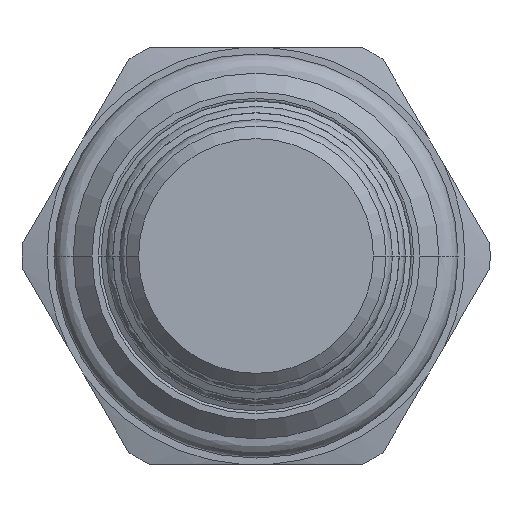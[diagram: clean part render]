
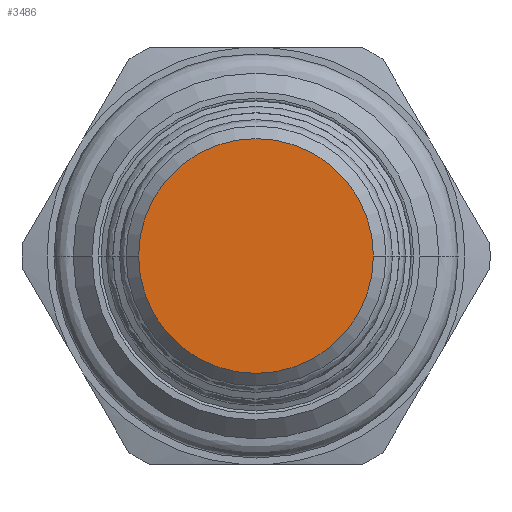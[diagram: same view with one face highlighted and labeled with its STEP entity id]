
A CAD part, front view. The second image highlights one B-rep face of the part: STEP entity #3486.
In plain terms, the highlighted planar face has unit normal (0, -1, 0).
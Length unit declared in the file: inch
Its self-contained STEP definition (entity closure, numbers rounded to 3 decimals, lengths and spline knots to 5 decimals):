
#1465=CARTESIAN_POINT('',(0.,-1.81277,0.));
#1466=DIRECTION('',(0.,-1.,0.));
#1467=DIRECTION('',(-1.,0.,0.));
#1468=AXIS2_PLACEMENT_3D('',#1465,#1466,#1467);
#1483=CARTESIAN_POINT('',(0.,-1.81277,0.));
#1484=DIRECTION('',(0.,-1.,0.));
#1485=DIRECTION('',(1.,0.,0.));
#1486=AXIS2_PLACEMENT_3D('',#1483,#1484,#1485);
#1651=CARTESIAN_POINT('',(0.281,-1.81277,0.));
#1652=CARTESIAN_POINT('',(-0.281,-1.81277,0.));
#1653=VERTEX_POINT('',#1651);
#1654=VERTEX_POINT('',#1652);
#3476=CARTESIAN_POINT('',(0.,-1.81277,0.));
#3477=DIRECTION('',(0.,1.,0.));
#3478=DIRECTION('',(1.,0.,0.));
#3479=AXIS2_PLACEMENT_3D('',#3476,#3477,#3478);
#3480=PLANE('',#3479);
#3481=ORIENTED_EDGE('',*,*,#3466,.F.);
#3483=ORIENTED_EDGE('',*,*,#3482,.F.);
#3484=EDGE_LOOP('',(#3481,#3483));
#3485=FACE_OUTER_BOUND('',#3484,.F.);
#3486=ADVANCED_FACE('',(#3485),#3480,.F.);
#1469=CIRCLE('',#1468,0.281);
#1487=CIRCLE('',#1486,0.281);
#3466=EDGE_CURVE('',#1654,#1653,#1469,.T.);
#3482=EDGE_CURVE('',#1653,#1654,#1487,.T.);
